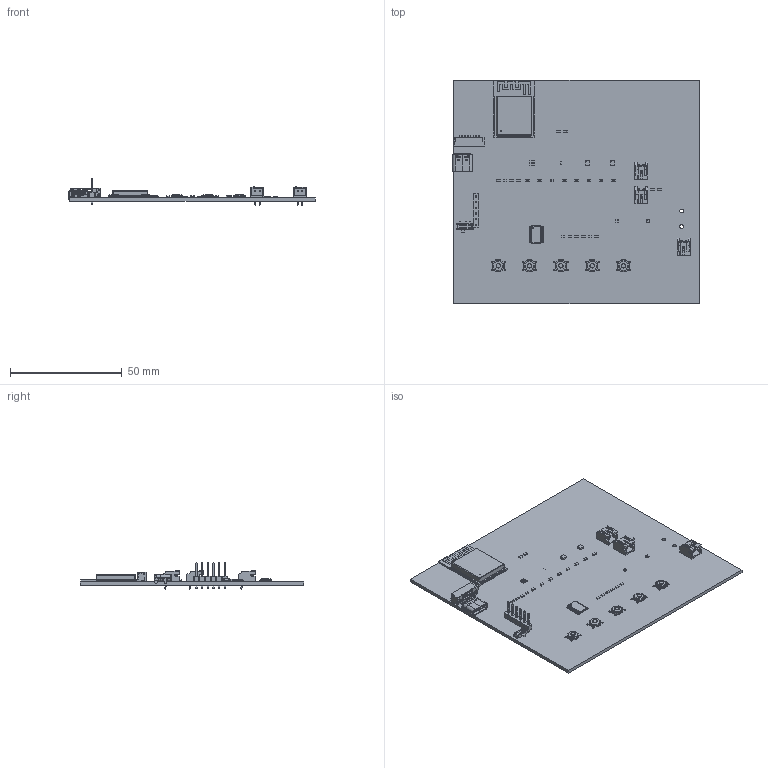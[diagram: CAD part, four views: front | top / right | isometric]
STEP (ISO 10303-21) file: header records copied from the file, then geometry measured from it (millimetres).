
FILE_DESCRIPTION(('KiCad electronic assembly'),'2;1');
FILE_NAME('Nightwave-Reference-UNROUTED.step','2026-10-04T14:30:05',( 'Pcbnew'),('Kicad'),'Open CASCADE STEP processor 7.9', 'KiCad to STEP converter','Unknown');
FILE_SCHEMA(('AUTOMOTIVE_DESIGN { 1 0 10303 214 1 1 1 1 }'));
Length unit declared in the file: millimetre
Products named in the file (26): Nightwave-Reference-UNROUTED 1; R_0603_1608Metric; C_0603_1608Metric; SW_SPDT_PCM12; Fusion_sp; PinHeader_1x06_P2.54mm_Vertical; PinHeader_1x06_P254mm_Vertical; SW_SPST_TL3342; Texas_DSQ0010A_WSON-10-1EP_2x2mm_P0.4mm_EP0.9x1.5mm; JST_PH_S2B-PH-K_1x02_P2.00mm_Horizontal; JST_S2B_PH_K; ESP32-S3-WROOM-1; WLCSP-9_1.21x1.22mm_Layout3x3_P0.4mm; USB_C_Receptacle_GCT_USB4105-xx-A_16P_TopMnt_Horizontal; USB_C_Receptacle_16P_TopMnt_Horizontal_GCT_USB4105-xx-A; TSSOP-24_4.4x7.8mm_P0.65mm; JST_GH_SM08B-GHS-TB_1x08-1MP_P1.25mm_Horizontal; JST_SM08B_GHS_TB; Nightwave-Reference_PCB
Assembly tree (53 placements, depth 3):
  Nightwave-Reference-UNROUTED 1
    R_0603_1608Metric  x15
      R_0603_1608Metric
    C_0603_1608Metric  x8
      C_0603_1608Metric
    SW_SPDT_PCM12
      Fusion_sp
    PinHeader_1x06_P2.54mm_Vertical
      PinHeader_1x06_P254mm_Vertical
    SW_SPST_TL3342  x5
      SW_SPST_TL3342
    Texas_DSQ0010A_WSON-10-1EP_2x2mm_P0.4mm_EP0.9x1.5mm  x2
      Texas_DSQ0010A_WSON-10-1EP_2x2mm_P0.4mm_EP0.9x1.5mm
    JST_PH_S2B-PH-K_1x02_P2.00mm_Horizontal  x3
      JST_S2B_PH_K
    ESP32-S3-WROOM-1
      ESP32-S3-WROOM-1
    WLCSP-9_1.21x1.22mm_Layout3x3_P0.4mm
      WLCSP-9_1.21x1.22mm_Layout3x3_P0.4mm
    USB_C_Receptacle_GCT_USB4105-xx-A_16P_TopMnt_Horizontal
      USB_C_Receptacle_16P_TopMnt_Horizontal_GCT_USB4105-xx-A
    TSSOP-24_4.4x7.8mm_P0.65mm
      TSSOP-24_4.4x7.8mm_P0.65mm
    JST_GH_SM08B-GHS-TB_1x08-1MP_P1.25mm_Horizontal
      JST_SM08B_GHS_TB
    Nightwave-Reference_PCB
Bounding box: 110.47 x 100 x 11.94 mm (x, y, z)
Volume: 18466.4 mm3; surface area: 27756 mm2
Topology: 127 solids, 132 shells, 5059 faces, 13029 edges, 8314 vertices
Faces by surface type: plane 4124, cylinder 811, bspline 96, sphere 13, cone 10, torus 5
Full cylindrical faces by diameter (mm): 0.122 x1, 0.2 x31, 0.25 x2, 0.5 x3, 0.65 x2, 0.75 x6, 0.8 x2, 0.9 x2, 1 x6, 1.7 x2, 2 x5
Entity records: 127519 total; most frequent: CARTESIAN_POINT 18721, ORIENTED_EDGE 17321, DIRECTION 16420, EDGE_CURVE 8661, LINE 7646, VECTOR 7646, VERTEX_POINT 5476, AXIS2_PLACEMENT_3D 4387
